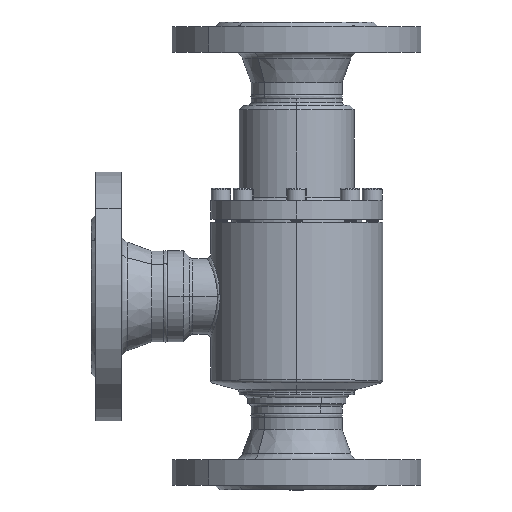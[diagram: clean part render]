
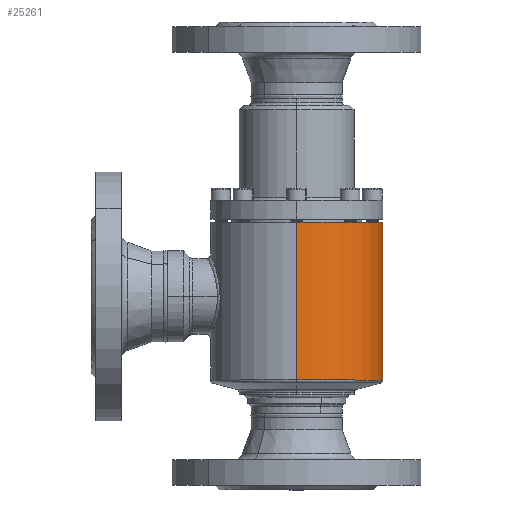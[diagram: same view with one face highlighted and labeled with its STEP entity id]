
A CAD part, top view. The second image highlights one B-rep face of the part: STEP entity #25261.
In plain terms, the highlighted cylindrical face has radius 57 mm (diameter 114 mm), a partial arc.
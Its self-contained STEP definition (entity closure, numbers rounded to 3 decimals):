
#775 = CARTESIAN_POINT ( 'NONE',  ( 0., 80.527, -57. ) ) ;
#17882 = CIRCLE ( 'NONE', #17883, 57. ) ;
#17883 = AXIS2_PLACEMENT_3D ( 'NONE', #17884, #17885, #17886 ) ;
#17884 = CARTESIAN_POINT ( 'NONE',  ( 0., -23.847, 0. ) ) ;
#17885 = DIRECTION ( 'NONE',  ( 0., 1., 0. ) ) ;
#17886 = DIRECTION ( 'NONE',  ( 0., 0., 1. ) ) ;
#1540 = FACE_OUTER_BOUND ( 'NONE', #22185, .T. ) ;
#1541 = CYLINDRICAL_SURFACE ( 'NONE', #1542, 57. ) ;
#1542 = AXIS2_PLACEMENT_3D ( 'NONE', #1543, #1544, #1545 ) ;
#1543 = CARTESIAN_POINT ( 'NONE',  ( 0., 76.795, 0. ) ) ;
#1544 = DIRECTION ( 'NONE',  ( 0., 1., 0. ) ) ;
#1545 = DIRECTION ( 'NONE',  ( 0., 0., 1. ) ) ;
#18204 = EDGE_CURVE ( 'NONE', #3056, #24608, #10994, .T. ) ;
#3056 = VERTEX_POINT ( 'NONE', #11967 ) ;
#3168 = VERTEX_POINT ( 'NONE', #21538 ) ;
#3302 = EDGE_CURVE ( 'NONE', #3168, #24608, #21918, .T. ) ;
#20442 = LINE ( 'NONE', #20443, #20444 ) ;
#20443 = CARTESIAN_POINT ( 'NONE',  ( 0., 76.795, 57. ) ) ;
#20444 = VECTOR ( 'NONE', #20445, 1000. ) ;
#20445 = DIRECTION ( 'NONE',  ( 0., 1., 0. ) ) ;
#4936 = VERTEX_POINT ( 'NONE', #24670 ) ;
#21528 = ORIENTED_EDGE ( 'NONE', *, *, #11572, .T. ) ;
#21538 = CARTESIAN_POINT ( 'NONE',  ( 0., 80.527, 57. ) ) ;
#21918 = CIRCLE ( 'NONE', #21919, 57. ) ;
#21919 = AXIS2_PLACEMENT_3D ( 'NONE', #21920, #21921, #21922 ) ;
#21920 = CARTESIAN_POINT ( 'NONE',  ( 0., 80.527, 0. ) ) ;
#21921 = DIRECTION ( 'NONE',  ( 0., 1., 0. ) ) ;
#21922 = DIRECTION ( 'NONE',  ( 0., 0., 1. ) ) ;
#22185 = EDGE_LOOP ( 'NONE', ( #21528, #13558, #24255, #15675 ) ) ;
#24255 = ORIENTED_EDGE ( 'NONE', *, *, #3302, .F. ) ;
#24608 = VERTEX_POINT ( 'NONE', #775 ) ;
#24670 = CARTESIAN_POINT ( 'NONE',  ( 0., -23.847, 57. ) ) ;
#25261 = ADVANCED_FACE ( 'NONE', ( #1540 ), #1541, .T. ) ;
#27167 = EDGE_CURVE ( 'NONE', #4936, #3168, #20442, .T. ) ;
#10994 = LINE ( 'NONE', #10995, #10996 ) ;
#10995 = CARTESIAN_POINT ( 'NONE',  ( 0., 76.795, -57. ) ) ;
#10996 = VECTOR ( 'NONE', #11017, 1000. ) ;
#11017 = DIRECTION ( 'NONE',  ( 0., 1., 0. ) ) ;
#11572 = EDGE_CURVE ( 'NONE', #4936, #3056, #17882, .T. ) ;
#11967 = CARTESIAN_POINT ( 'NONE',  ( 0., -23.847, -57. ) ) ;
#13558 = ORIENTED_EDGE ( 'NONE', *, *, #18204, .T. ) ;
#15675 = ORIENTED_EDGE ( 'NONE', *, *, #27167, .F. ) ;
